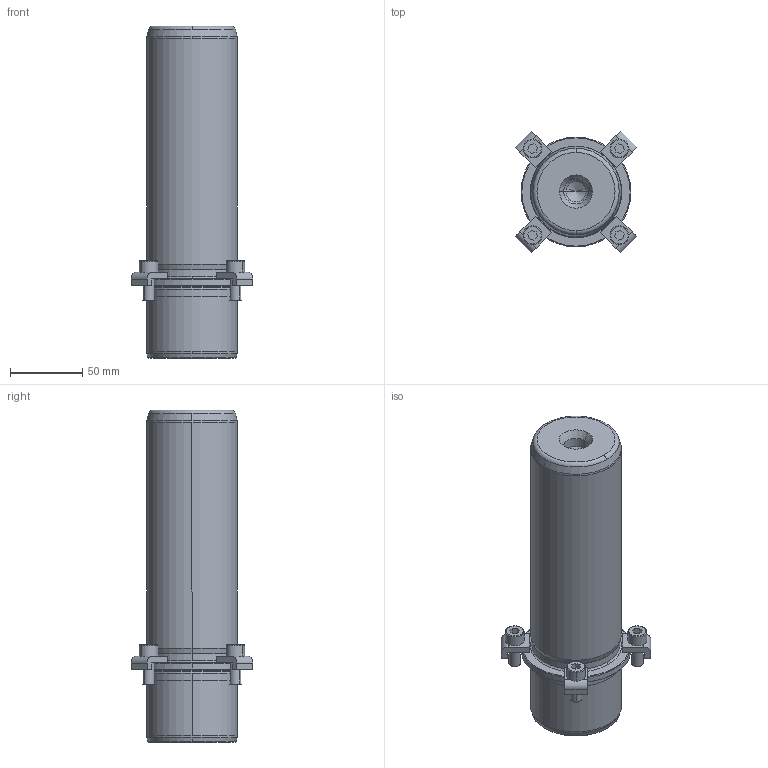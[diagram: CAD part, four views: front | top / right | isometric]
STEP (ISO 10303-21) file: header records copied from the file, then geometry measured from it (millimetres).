
FILE_DESCRIPTION((''),'2;1');
FILE_NAME('P21_063_180.stp','2008-12-23T09:21:15',(''),(''),'Mechanical Desktop 2009','Mechanical Desktop 2009',', , ');
FILE_SCHEMA(('CONFIG_CONTROL_DESIGN'));
Length unit declared in the file: millimetre
Products named in the file (2): Product; blmdl1
Assembly tree (1 placements, depth 2):
  Product
    blmdl1
Bounding box: 84.5 x 84.5 x 230 mm (x, y, z)
Volume: 716348 mm3; surface area: 67149.1 mm2
Topology: 9 solids, 9 shells, 195 faces, 477 edges, 309 vertices
Faces by surface type: plane 77, cylinder 52, cone 34, torus 16, bspline 16
Entity records: 6547 total; most frequent: CARTESIAN_POINT 1683, DIRECTION 1078, ORIENTED_EDGE 946, EDGE_CURVE 473, AXIS2_PLACEMENT_3D 424, VERTEX_POINT 309, CIRCLE 243, VECTOR 230
